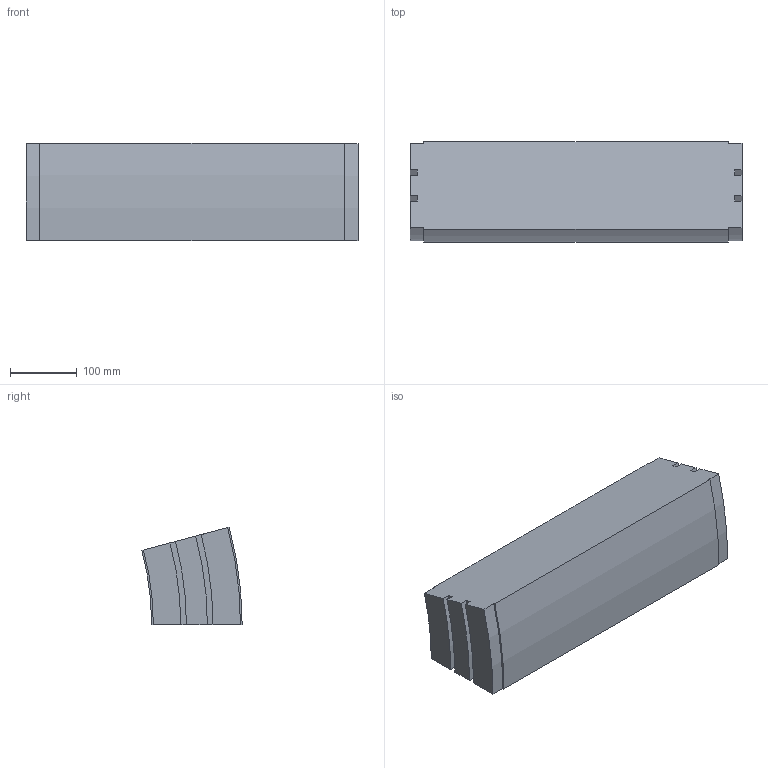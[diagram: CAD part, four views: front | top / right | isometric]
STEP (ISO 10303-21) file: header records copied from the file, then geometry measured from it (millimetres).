
FILE_DESCRIPTION (( 'STEP AP214' ), '1' );
FILE_NAME ('02.150V15.500.N FS-500-MTC-150 Bocht verticaal 15°.STEP', '2013-03-29T13:06:08', ( 'Gebruiker' ), ( '' ), 'SwSTEP 2.0', 'SolidWorks 2012', '' );
FILE_SCHEMA (( 'AUTOMOTIVE_DESIGN' ));
Length unit declared in the file: millimetre
Products named in the file (1): 02.150V15.500.N FS-500-MTC-150 Bocht verticaal 15°
Bounding box: 499 x 150.72 x 147.01 mm (x, y, z)
Volume: 8806931.4 mm3; surface area: 312321.8 mm2
Topology: 1 solids, 1 shells, 30 faces, 84 edges, 56 vertices
Faces by surface type: plane 16, cylinder 14
Entity records: 1010 total; most frequent: DIRECTION 174, CARTESIAN_POINT 171, ORIENTED_EDGE 168, EDGE_CURVE 84, AXIS2_PLACEMENT_3D 59, VERTEX_POINT 56, LINE 56, VECTOR 56
